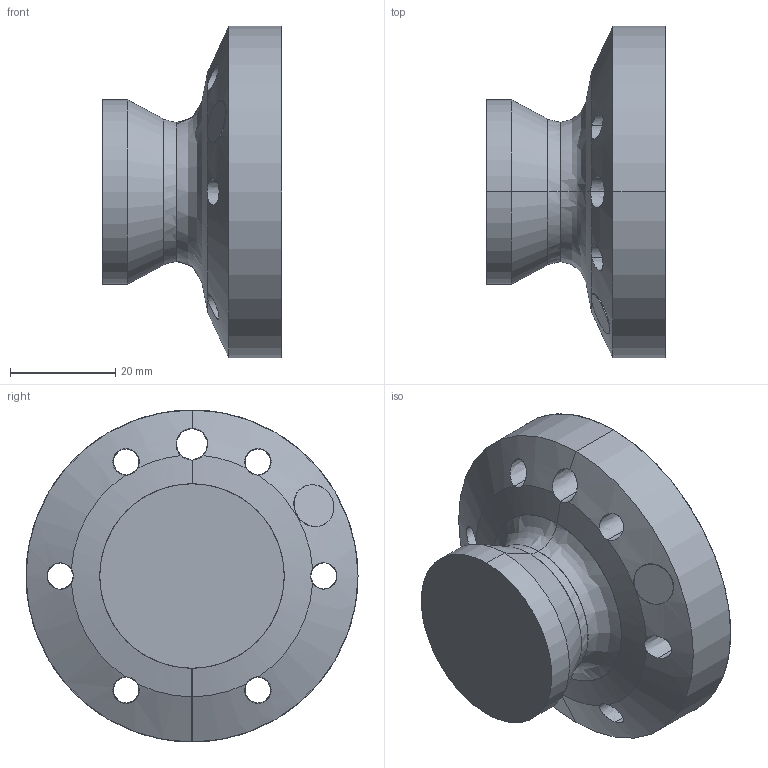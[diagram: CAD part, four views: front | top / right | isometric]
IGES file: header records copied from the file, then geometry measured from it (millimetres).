
Start section: SolidWorks IGES file using analytic representation for surfaces
Global section: file name: C:\Users\sefaane2\Downloads\Sparad modell IRB4400 10\Final SolidWorks CADSIM models and .txt file\Macro\Macro_IRC5_IGES_j\IRB4400_L10-253_IRC5_rev03_LINK06_CAD.IGS; native system: SolidWorks 2014; preprocessor: SolidWorks 2014; author: SEFAANE2; date: 161103.133208; units: millimetre
Bounding box: 34 x 63 x 63 mm (x, y, z)
Surface area: 12443.1 mm2 (no closed solid volume)
Topology: 0 solids, 0 shells, 39 faces, 1187 edges, 1187 vertices
Faces by surface type: revolution 30, bspline 9
